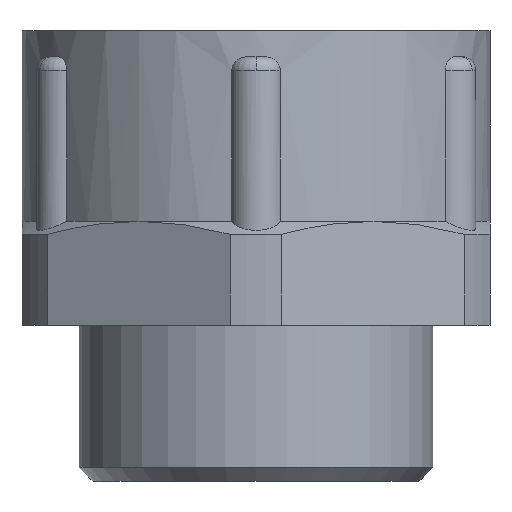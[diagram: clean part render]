
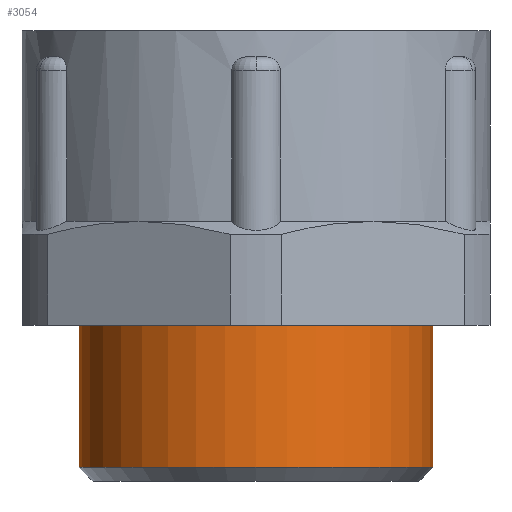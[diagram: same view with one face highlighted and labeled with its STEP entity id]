
A CAD part, front view. The second image highlights one B-rep face of the part: STEP entity #3054.
In plain terms, the highlighted cylindrical face has radius 10.2 mm (diameter 20.4 mm), a partial arc.
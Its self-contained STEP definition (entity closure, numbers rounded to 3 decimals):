
#1727 = VECTOR ( 'NONE', #1915, 1000. ) ;
#1728 = CARTESIAN_POINT ( 'NONE',  ( 10.2, 0., 0. ) ) ;
#1729 = LINE ( 'NONE', #1728, #1727 ) ;
#1730 = CARTESIAN_POINT ( 'NONE',  ( 10.2, 0., 9. ) ) ;
#1731 = CARTESIAN_POINT ( 'NONE',  ( -10.2, 0., 9. ) ) ;
#1914 = CARTESIAN_POINT ( 'NONE',  ( 10.2, 0., 0.8 ) ) ;
#1915 = DIRECTION ( 'NONE',  ( 0., 0., -1. ) ) ;
#1949 = DIRECTION ( 'NONE',  ( 0., 0., -1. ) ) ;
#1950 = VECTOR ( 'NONE', #1949, 1000. ) ;
#1951 = CARTESIAN_POINT ( 'NONE',  ( -10.2, 0., 0. ) ) ;
#1958 = LINE ( 'NONE', #1951, #1950 ) ;
#2010 = CARTESIAN_POINT ( 'NONE',  ( -10.2, 0., 0.8 ) ) ;
#2030 = DIRECTION ( 'NONE',  ( -1., 0., 0. ) ) ;
#2031 = DIRECTION ( 'NONE',  ( 0., 0., -1. ) ) ;
#2032 = CARTESIAN_POINT ( 'NONE',  ( 0., 0., 0. ) ) ;
#2033 = AXIS2_PLACEMENT_3D ( 'NONE', #2032, #2031, #2030 ) ;
#2035 = CYLINDRICAL_SURFACE ( 'NONE', #2033, 10.2 ) ;
#2036 = FACE_OUTER_BOUND ( 'NONE', #3055, .T. ) ;
#2037 = DIRECTION ( 'NONE',  ( -1., 0., 0. ) ) ;
#2038 = DIRECTION ( 'NONE',  ( 0., 0., -1. ) ) ;
#2039 = CARTESIAN_POINT ( 'NONE',  ( 0., 0., 0.8 ) ) ;
#2040 = AXIS2_PLACEMENT_3D ( 'NONE', #2039, #2038, #2037 ) ;
#2044 = CIRCLE ( 'NONE', #2040, 10.2 ) ;
#2347 = DIRECTION ( 'NONE',  ( -1., 0., 0. ) ) ;
#2348 = DIRECTION ( 'NONE',  ( 0., 0., -1. ) ) ;
#2349 = CARTESIAN_POINT ( 'NONE',  ( 0., 0., 9. ) ) ;
#2350 = AXIS2_PLACEMENT_3D ( 'NONE', #2349, #2348, #2347 ) ;
#2351 = CIRCLE ( 'NONE', #2350, 10.2 ) ;
#2890 = VERTEX_POINT ( 'NONE', #1731 ) ;
#2891 = VERTEX_POINT ( 'NONE', #1730 ) ;
#2893 = EDGE_CURVE ( 'NONE', #2891, #2894, #1729, .T. ) ;
#2894 = VERTEX_POINT ( 'NONE', #1914 ) ;
#3027 = EDGE_CURVE ( 'NONE', #2890, #3029, #1958, .T. ) ;
#3029 = VERTEX_POINT ( 'NONE', #2010 ) ;
#3053 = EDGE_CURVE ( 'NONE', #2894, #3029, #2044, .T. ) ;
#3054 = ADVANCED_FACE ( 'NONE', ( #2036 ), #2035, .T. ) ;
#3055 = EDGE_LOOP ( 'NONE', ( #3056, #3057, #3058, #3059 ) ) ;
#3056 = ORIENTED_EDGE ( 'NONE', *, *, #2893, .F. ) ;
#3057 = ORIENTED_EDGE ( 'NONE', *, *, #3140, .T. ) ;
#3058 = ORIENTED_EDGE ( 'NONE', *, *, #3027, .T. ) ;
#3059 = ORIENTED_EDGE ( 'NONE', *, *, #3053, .F. ) ;
#3140 = EDGE_CURVE ( 'NONE', #2891, #2890, #2351, .T. ) ;
